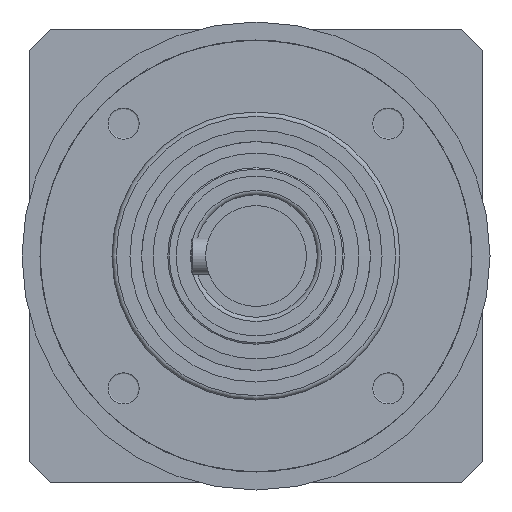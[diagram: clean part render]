
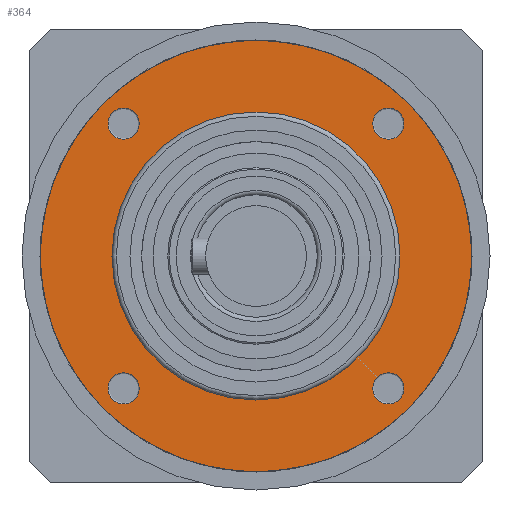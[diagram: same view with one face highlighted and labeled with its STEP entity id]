
A CAD part, left-side view. The second image highlights one B-rep face of the part: STEP entity #364.
In plain terms, the highlighted planar face has unit normal (-1, 0, 0).
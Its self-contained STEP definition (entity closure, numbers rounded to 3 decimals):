
#364=ADVANCED_FACE('',(#647,#648,#649,#650,#556),#506,.T.);
#506=PLANE('',#1957);
#556=FACE_OUTER_BOUND('',#811,.T.);
#647=FACE_BOUND('',#807,.T.);
#648=FACE_BOUND('',#808,.T.);
#649=FACE_BOUND('',#809,.T.);
#650=FACE_BOUND('',#810,.T.);
#807=EDGE_LOOP('',(#1046));
#808=EDGE_LOOP('',(#1047));
#809=EDGE_LOOP('',(#1048));
#810=EDGE_LOOP('',(#1049));
#811=EDGE_LOOP('',(#1050));
#1046=ORIENTED_EDGE('',*,*,#1624,.T.);
#1047=ORIENTED_EDGE('',*,*,#1625,.T.);
#1048=ORIENTED_EDGE('',*,*,#1626,.T.);
#1049=ORIENTED_EDGE('',*,*,#1627,.T.);
#1050=ORIENTED_EDGE('',*,*,#1628,.T.);
#1448=VERTEX_POINT('',#2826);
#1449=VERTEX_POINT('',#2828);
#1450=VERTEX_POINT('',#2830);
#1451=VERTEX_POINT('',#2832);
#1452=VERTEX_POINT('',#2834);
#1624=EDGE_CURVE('',#1448,#1448,#1825,.T.);
#1625=EDGE_CURVE('',#1449,#1449,#1826,.T.);
#1626=EDGE_CURVE('',#1450,#1450,#1827,.T.);
#1627=EDGE_CURVE('',#1451,#1451,#1828,.T.);
#1628=EDGE_CURVE('',#1452,#1452,#1829,.T.);
#1825=CIRCLE('',#1952,2.175);
#1826=CIRCLE('',#1953,2.175);
#1827=CIRCLE('',#1954,2.175);
#1828=CIRCLE('',#1955,2.175);
#1829=CIRCLE('',#1956,30.);
#1952=AXIS2_PLACEMENT_3D('',#2825,#2222,#2223);
#1953=AXIS2_PLACEMENT_3D('',#2827,#2224,#2225);
#1954=AXIS2_PLACEMENT_3D('',#2829,#2226,#2227);
#1955=AXIS2_PLACEMENT_3D('',#2831,#2228,#2229);
#1956=AXIS2_PLACEMENT_3D('',#2833,#2230,#2231);
#1957=AXIS2_PLACEMENT_3D('',#2835,#2232,#2233);
#2222=DIRECTION('',(1.,0.,0.));
#2223=DIRECTION('',(0.,-0.707,-0.707));
#2224=DIRECTION('',(1.,0.,0.));
#2225=DIRECTION('',(0.,0.707,-0.707));
#2226=DIRECTION('',(1.,0.,0.));
#2227=DIRECTION('',(0.,0.707,0.707));
#2228=DIRECTION('',(1.,0.,0.));
#2229=DIRECTION('',(0.,-0.707,0.707));
#2230=DIRECTION('',(-1.,0.,0.));
#2231=DIRECTION('',(0.,-0.707,0.707));
#2232=DIRECTION('',(-1.,0.,0.));
#2233=DIRECTION('',(0.,-0.707,0.707));
#2825=CARTESIAN_POINT('',(-74.25,-18.385,18.385));
#2826=CARTESIAN_POINT('',(-74.25,-19.923,16.847));
#2827=CARTESIAN_POINT('',(-74.25,-18.385,-18.385));
#2828=CARTESIAN_POINT('',(-74.25,-16.847,-19.923));
#2829=CARTESIAN_POINT('',(-74.25,18.385,-18.385));
#2830=CARTESIAN_POINT('',(-74.25,19.923,-16.847));
#2831=CARTESIAN_POINT('',(-74.25,18.385,18.385));
#2832=CARTESIAN_POINT('',(-74.25,16.847,19.923));
#2833=CARTESIAN_POINT('',(-74.25,0.,0.));
#2834=CARTESIAN_POINT('',(-74.25,-21.213,21.213));
#2835=CARTESIAN_POINT('',(-74.25,0.,0.));
